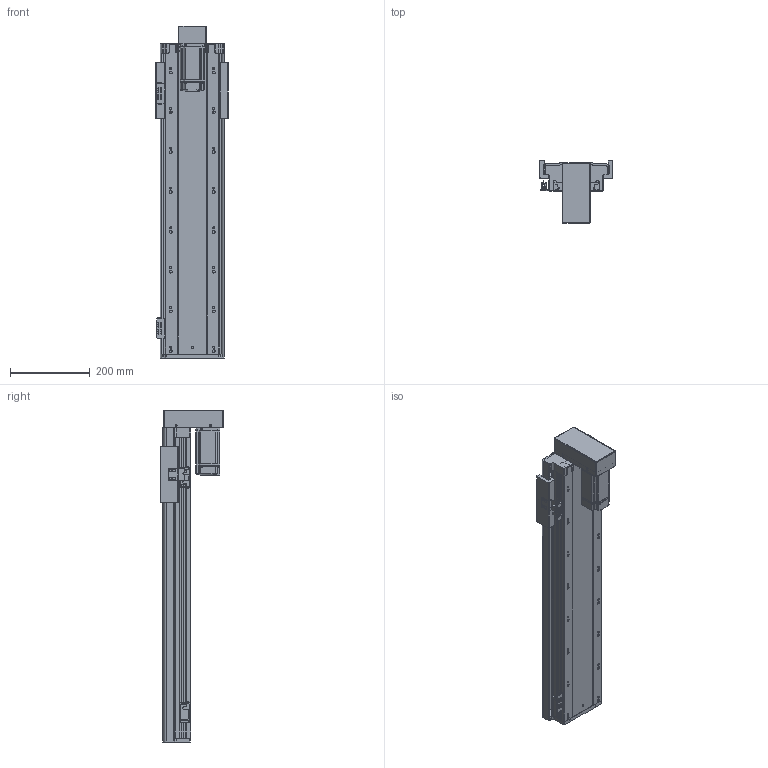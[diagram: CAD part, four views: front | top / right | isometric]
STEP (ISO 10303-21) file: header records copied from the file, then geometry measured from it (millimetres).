
FILE_DESCRIPTION (( 'STEP AP203' ), '1' );
FILE_NAME ('RY140FB-L2010-300-BK.SLDASM_550.step', '2021-02-23T02:28:49', ( '盈信电脑' ), ( '东莞市道滘镇水果街19号' ), 'SwSTEP 2.0', 'SolidWorks 2012', '' );
FILE_SCHEMA (( 'CONFIG_CONTROL_DESIGN' ));
Length unit declared in the file: millimetre
Products named in the file (17): RY140FB-覜茼え; RY140FB-L2010-300-BK.SLDASM_550; RY140-674嫖萇耀輸; 覜茼ん674; RY140直线电机感应器674光电安装座; RY140狟殏萇儂欶; RY140FB-狟殏萇儂假蚾啣; RY140FB-20佪裝臏賑輸; RY140FB-300蛌殏奻裔啣-BK_550; RY140FB-转折电机端支撑座(7002); 侂狟400W侜督萇儂; 15; RY140FB-300蛌殏倰第菁釱-BK_550; 滅袉蝶18-10; RY140FB-綴裔啣; 滅袉蝶18-24
Assembly tree (20 placements, depth 3):
  RY140FB-L2010-300-BK.SLDASM_550
    RY140FB-300蛌殏倰第菁釱-BK_550
    RY140FB-綴裔啣
    滅袉蝶18-24  x2
    滅袉蝶18-10
    RY140FB-转折电机端支撑座(7002)
    侂狟400W侜督萇儂
      15
    RY140狟殏萇儂欶
    RY140FB-狟殏萇儂假蚾啣
    RY140FB-20佪裝臏賑輸
    RY140FB-300蛌殏奻裔啣-BK_550
    RY140-674嫖萇耀輸
      覜茼ん674  x2
      RY140直线电机感应器674光电安装座
    RY140-674嫖萇耀輸
      RY140直线电机感应器674光电安装座
      覜茼ん674
    RY140FB-覜茼え
Bounding box: 183 x 156 x 834 mm (x, y, z)
Volume: 3470337 mm3; surface area: 1123712.3 mm2
Topology: 17 solids, 17 shells, 1754 faces, 4817 edges, 3069 vertices
Faces by surface type: cylinder 845, plane 723, cone 158, bspline 28
Entity records: 53019 total; most frequent: CARTESIAN_POINT 10743, DIRECTION 8562, ORIENTED_EDGE 8366, EDGE_CURVE 4183, AXIS2_PLACEMENT_3D 3084, VERTEX_POINT 2737, LINE 2394, VECTOR 2394
